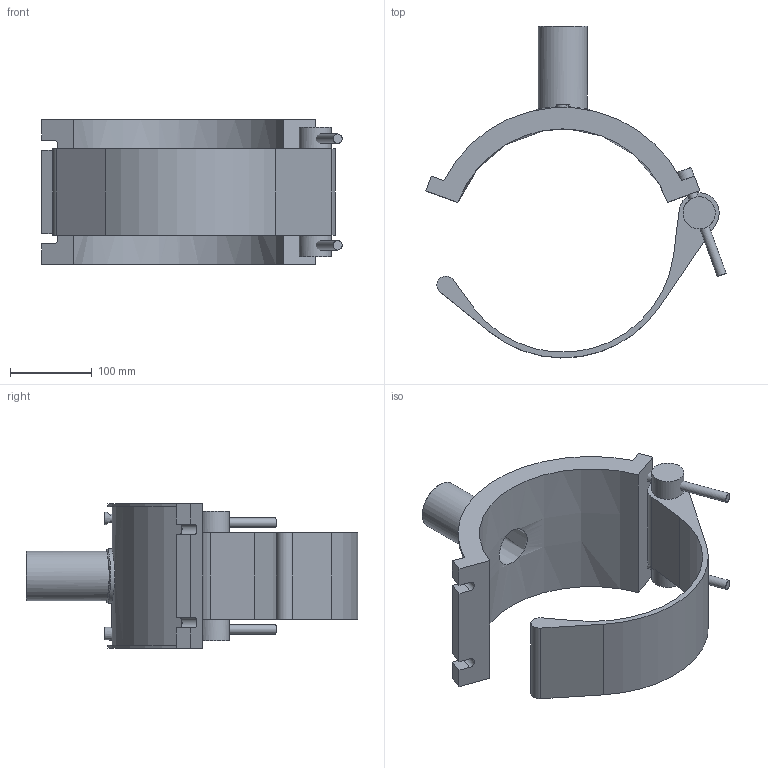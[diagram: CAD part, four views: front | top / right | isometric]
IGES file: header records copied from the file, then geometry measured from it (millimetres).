
Global section: file name: 5958BB03100020.ipt; native system: Autodesk Inventor 2019; preprocessor: unknown; author: KIM; date: 20210830.101304; units: inch
Bounding box: 366.61 x 405.23 x 176.02 mm (x, y, z)
Volume: 2332684.7 mm3; surface area: 345907.2 mm2
Topology: 5 solids, 5 shells, 65 faces, 135 edges, 91 vertices
Faces by surface type: plane 37, cylinder 17, revolution 7, cone 3, bspline 1
Full cylindrical faces by diameter (mm): 4 x2, 11.453 x2, 19.089 x2, 39.269 x2, 60.1 x1, 66.11 x1
